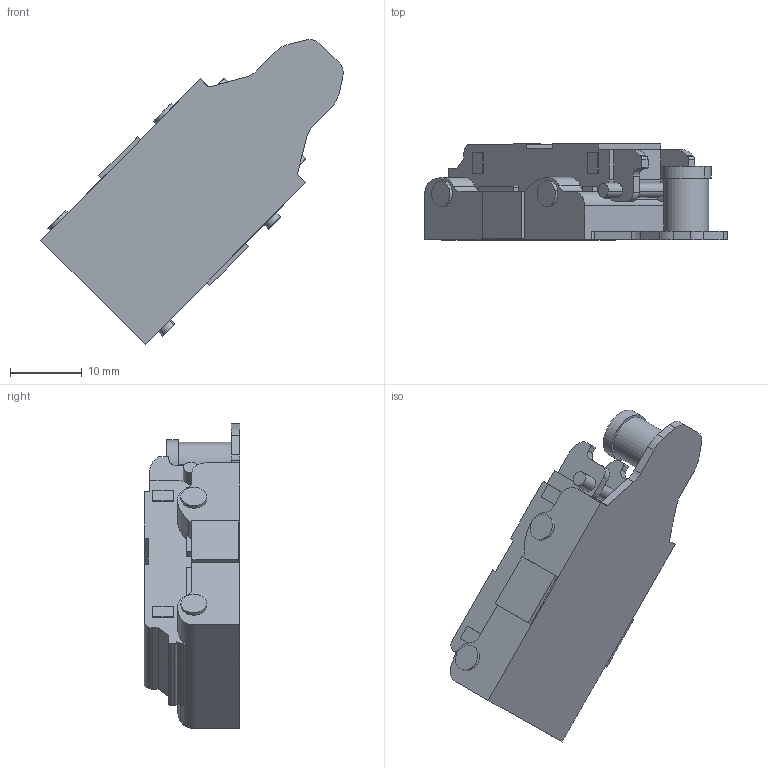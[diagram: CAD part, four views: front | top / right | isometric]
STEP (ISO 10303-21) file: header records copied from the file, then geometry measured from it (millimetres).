
FILE_DESCRIPTION (( 'STEP AP203' ), '1' );
FILE_NAME ('82H42YQ105-DTC 3D.STEP', '2024-07-11T03:13:32', ( '微软用户' ), ( '微软中国' ), 'SwSTEP 2.0', 'SolidWorks 2021', '' );
FILE_SCHEMA (( 'CONFIG_CONTROL_DESIGN' ));
Length unit declared in the file: millimetre
Products named in the file (1): 82H42YQ105-DTC 3D
Bounding box: 42.28 x 13.4 x 42.59 mm (x, y, z)
Volume: 7706.2 mm3; surface area: 3503.3 mm2
Topology: 1 solids, 1 shells, 184 faces, 515 edges, 345 vertices
Faces by surface type: plane 112, cylinder 70, bspline 2
Entity records: 6079 total; most frequent: CARTESIAN_POINT 1123, ORIENTED_EDGE 1030, DIRECTION 1018, EDGE_CURVE 515, VECTOR 358, LINE 358, VERTEX_POINT 345, AXIS2_PLACEMENT_3D 330
